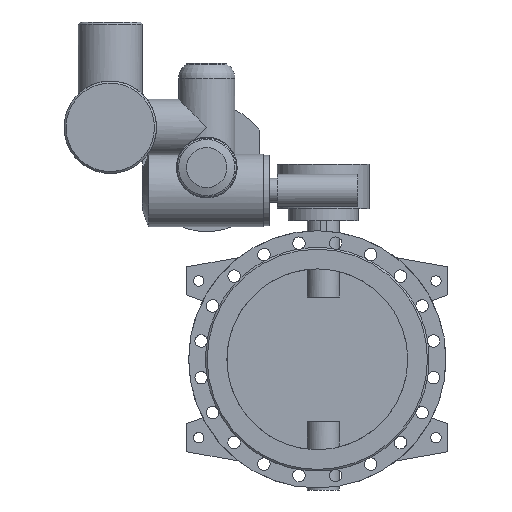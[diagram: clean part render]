
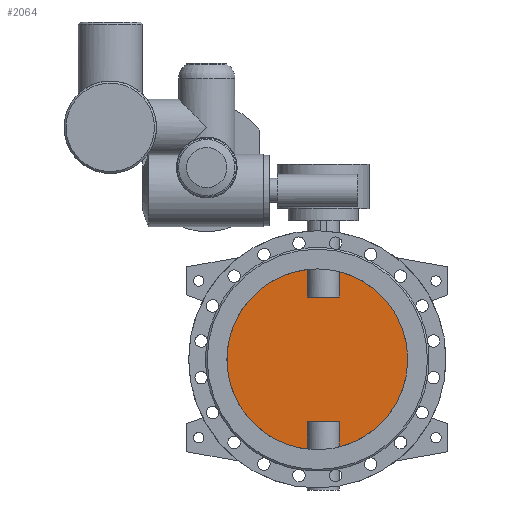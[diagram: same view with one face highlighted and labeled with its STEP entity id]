
A CAD part, front view. The second image highlights one B-rep face of the part: STEP entity #2064.
In plain terms, the highlighted planar face has unit normal (0, -1, 0).
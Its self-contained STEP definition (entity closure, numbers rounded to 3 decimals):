
#2064=ADVANCED_FACE('',(#4057),#4059,.F.);
#4057=FACE_BOUND('',#4058,.T.);
#4058=EDGE_LOOP('',(#5239,#5240,#5241,#5242,#5243,#5244,#5245,#5246));
#4059=PLANE('',#4060);
#4060=AXIS2_PLACEMENT_3D('',#4061,#4062,#4063);
#4061=CARTESIAN_POINT('',(0.,-5.,0.));
#4062=DIRECTION('',(0.,1.,0.));
#4063=DIRECTION('',(1.,0.,0.));
#5239=ORIENTED_EDGE('',*,*,#5831,.T.);
#5240=ORIENTED_EDGE('',*,*,#5836,.T.);
#5241=ORIENTED_EDGE('',*,*,#5837,.T.);
#5242=ORIENTED_EDGE('',*,*,#5838,.T.);
#5243=ORIENTED_EDGE('',*,*,#5833,.T.);
#5244=ORIENTED_EDGE('',*,*,#5839,.T.);
#5245=ORIENTED_EDGE('',*,*,#5840,.T.);
#5246=ORIENTED_EDGE('',*,*,#5841,.T.);
#5831=EDGE_CURVE('',#6857,#6858,#6859,.F.);
#5833=EDGE_CURVE('',#6862,#6860,#6863,.F.);
#5836=EDGE_CURVE('',#6858,#6867,#6868,.T.);
#5837=EDGE_CURVE('',#6867,#6869,#6870,.F.);
#5838=EDGE_CURVE('',#6869,#6862,#6871,.F.);
#5839=EDGE_CURVE('',#6860,#6872,#6873,.F.);
#5840=EDGE_CURVE('',#6872,#6874,#6875,.F.);
#5841=EDGE_CURVE('',#6874,#6857,#6876,.T.);
#6857=VERTEX_POINT('',#13580);
#6858=VERTEX_POINT('',#13581);
#6859=CIRCLE('',#13582,225.);
#6860=VERTEX_POINT('',#13586);
#6862=VERTEX_POINT('',#13672);
#6863=CIRCLE('',#13673,225.);
#6867=VERTEX_POINT('',#13791);
#6868=LINE('',#13792,#13793);
#6869=VERTEX_POINT('',#13795);
#6870=LINE('',#13796,#13797);
#6871=LINE('',#13799,#13800);
#6872=VERTEX_POINT('',#13802);
#6873=LINE('',#13803,#13804);
#6874=VERTEX_POINT('',#13806);
#6875=LINE('',#13807,#13808);
#6876=LINE('',#13810,#13811);
#13580=CARTESIAN_POINT('',(54.686,-5.,-218.253));
#13581=CARTESIAN_POINT('',(54.686,-5.,218.253));
#13582=AXIS2_PLACEMENT_3D('',#13583,#13584,#13585);
#13583=CARTESIAN_POINT('',(0.,-5.,0.));
#13584=DIRECTION('',(0.,1.,0.));
#13585=DIRECTION('',(0.243,0.,0.97));
#13586=CARTESIAN_POINT('',(-24.686,-5.,-223.642));
#13672=CARTESIAN_POINT('',(-24.686,-5.,223.642));
#13673=AXIS2_PLACEMENT_3D('',#13674,#13675,#13676);
#13674=CARTESIAN_POINT('',(0.,-5.,0.));
#13675=DIRECTION('',(0.,1.,0.));
#13676=DIRECTION('',(-0.11,0.,-0.994));
#13791=CARTESIAN_POINT('',(54.686,-5.,155.));
#13792=CARTESIAN_POINT('',(54.686,-5.,218.253));
#13793=VECTOR('',#13794,1.);
#13794=DIRECTION('',(0.,0.,-1.));
#13795=CARTESIAN_POINT('',(-24.686,-5.,155.));
#13796=CARTESIAN_POINT('',(-24.686,-5.,155.));
#13797=VECTOR('',#13798,1.);
#13798=DIRECTION('',(1.,0.,0.));
#13799=CARTESIAN_POINT('',(-24.686,-5.,223.642));
#13800=VECTOR('',#13801,1.);
#13801=DIRECTION('',(0.,0.,-1.));
#13802=CARTESIAN_POINT('',(-24.686,-5.,-155.));
#13803=CARTESIAN_POINT('',(-24.686,-5.,-155.));
#13804=VECTOR('',#13805,1.);
#13805=DIRECTION('',(0.,0.,-1.));
#13806=CARTESIAN_POINT('',(54.686,-5.,-155.));
#13807=CARTESIAN_POINT('',(54.686,-5.,-155.));
#13808=VECTOR('',#13809,1.);
#13809=DIRECTION('',(-1.,0.,0.));
#13810=CARTESIAN_POINT('',(54.686,-5.,-155.));
#13811=VECTOR('',#13812,1.);
#13812=DIRECTION('',(0.,0.,-1.));
